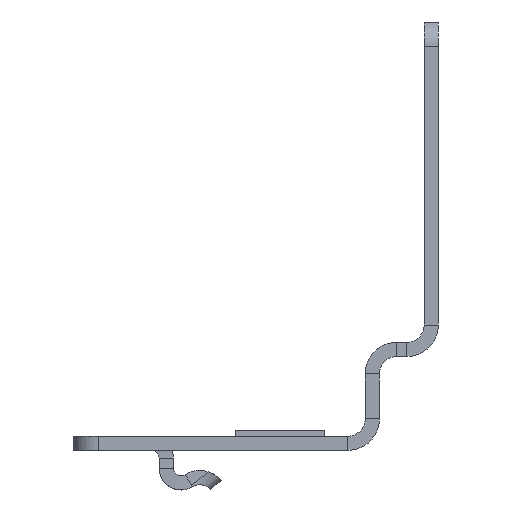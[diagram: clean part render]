
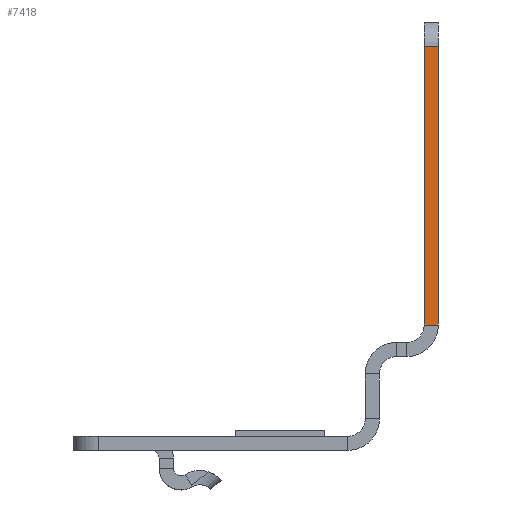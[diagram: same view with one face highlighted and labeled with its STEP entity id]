
A CAD part, left-side view. The second image highlights one B-rep face of the part: STEP entity #7418.
In plain terms, the highlighted planar face has unit normal (-1, 0, 0).
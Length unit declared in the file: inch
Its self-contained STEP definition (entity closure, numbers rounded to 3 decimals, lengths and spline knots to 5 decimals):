
#1017 = DIRECTION ( 'NONE',  ( 0., 1., 0. ) ) ;
#1019 = CARTESIAN_POINT ( 'NONE',  ( -8.2045, 0.072, 1.572 ) ) ;
#1048 = DIRECTION ( 'NONE',  ( 0., 0., -1. ) ) ;
#1063 = CARTESIAN_POINT ( 'NONE',  ( -8.2045, 0.072, 1.697 ) ) ;
#1293 = DIRECTION ( 'NONE',  ( 0., 0., -1. ) ) ;
#1307 = CARTESIAN_POINT ( 'NONE',  ( -8.2045, 0., 1.697 ) ) ;
#1846 = EDGE_CURVE ( 'NONE', #8069, #7925, #3290, .T. ) ;
#1868 = EDGE_CURVE ( 'NONE', #7991, #7983, #4450, .T. ) ;
#1873 = EDGE_CURVE ( 'NONE', #8069, #7991, #4308, .T. ) ;
#2821 = CARTESIAN_POINT ( 'NONE',  ( -8.2045, 0., 1.572 ) ) ;
#2876 = CARTESIAN_POINT ( 'NONE',  ( -8.2045, 0.072, 1.572 ) ) ;
#2880 = CARTESIAN_POINT ( 'NONE',  ( -8.2045, 0.072, 0.16 ) ) ;
#2919 = CARTESIAN_POINT ( 'NONE',  ( -8.2045, 0., 0.16 ) ) ;
#3290 = LINE ( 'NONE', #1307, #3300 ) ;
#3300 = VECTOR ( 'NONE', #1293, 39.37008 ) ;
#4026 = ORIENTED_EDGE ( 'NONE', *, *, #1846, .F. ) ;
#4027 = ORIENTED_EDGE ( 'NONE', *, *, #1873, .T. ) ;
#4028 = ORIENTED_EDGE ( 'NONE', *, *, #1868, .T. ) ;
#4029 = ORIENTED_EDGE ( 'NONE', *, *, #7303, .T. ) ;
#4188 = EDGE_LOOP ( 'NONE', ( #4026, #4027, #4028, #4029 ) ) ;
#4308 = LINE ( 'NONE', #1019, #4311 ) ;
#4311 = VECTOR ( 'NONE', #1017, 39.37008 ) ;
#4450 = LINE ( 'NONE', #1063, #4451 ) ;
#4451 = VECTOR ( 'NONE', #1048, 39.37008 ) ;
#4571 = AXIS2_PLACEMENT_3D ( 'NONE', #7623, #7615, #7614 ) ;
#6494 = VECTOR ( 'NONE', #8523, 39.37008 ) ;
#6501 = LINE ( 'NONE', #8532, #6494 ) ;
#6676 = FACE_OUTER_BOUND ( 'NONE', #4188, .T. ) ;
#7303 = EDGE_CURVE ( 'NONE', #7983, #7925, #6501, .T. ) ;
#7418 = ADVANCED_FACE ( 'NONE', ( #6676 ), #7622, .F. ) ;
#7614 = DIRECTION ( 'NONE',  ( 0., 0., -1. ) ) ;
#7615 = DIRECTION ( 'NONE',  ( 1., 0., 0. ) ) ;
#7622 = PLANE ( 'NONE',  #4571 ) ;
#7623 = CARTESIAN_POINT ( 'NONE',  ( -8.2045, 0.459, -0.316 ) ) ;
#7925 = VERTEX_POINT ( 'NONE', #2919 ) ;
#7983 = VERTEX_POINT ( 'NONE', #2880 ) ;
#7991 = VERTEX_POINT ( 'NONE', #2876 ) ;
#8069 = VERTEX_POINT ( 'NONE', #2821 ) ;
#8523 = DIRECTION ( 'NONE',  ( 0., -1., 0. ) ) ;
#8532 = CARTESIAN_POINT ( 'NONE',  ( -8.2045, 0.072, 0.16 ) ) ;
